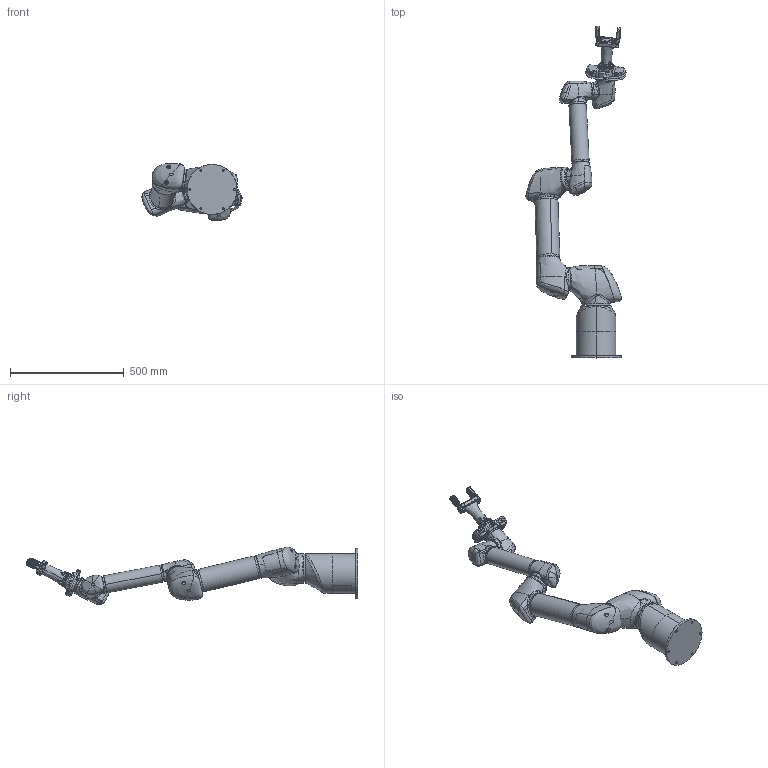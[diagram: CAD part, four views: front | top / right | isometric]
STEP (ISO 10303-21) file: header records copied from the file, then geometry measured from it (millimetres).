
FILE_DESCRIPTION (( 'STEP AP214' ), '1' );
FILE_NAME ('PUB OB7 with Stand.STEP', '2025-12-17T18:59:51', ( '' ), ( '' ), 'SwSTEP 2.0', 'SolidWorks 2025', '' );
FILE_SCHEMA (( 'AUTOMOTIVE_DESIGN' ));
Length unit declared in the file: inch
Products named in the file (17): PG2 Body; FASM4x0.7L10SS PHPH_92000A220; PUB Joint - Medium; PUB Link - J4J5 cover flange; Slider and Finger sub assy_Standard Fingers; PG2 Public; PUB Link - OB7 Small; PUB Joint - Large J2; PUB Joint - Small; MAC1903 - Gripper Finger; PUB OB7 with Stand; MAC1902 - Rack; PUB Joint - Large J1; MLD917 - Gripper Finger Tip - Molded; PUB Link - OB7 Large; PUB OB7 with Stand(2); PUB Handle Assy
Assembly tree (21 placements, depth 5):
  PUB OB7 with Stand
    PUB OB7 with Stand(2)
      PG2 Public
        Slider and Finger sub assy_Standard Fingers  x2
          MLD917 - Gripper Finger Tip - Molded
          MAC1902 - Rack
          MAC1903 - Gripper Finger
          FASM4x0.7L10SS PHPH_92000A220
        PG2 Body
      PUB Joint - Large J1
      PUB Joint - Large J2
      PUB Joint - Medium  x2
      PUB Link - OB7 Large
      PUB Link - J4J5 cover flange
      PUB Joint - Small  x3
      PUB Link - OB7 Small
      PUB Handle Assy
Bounding box: 440.39 x 1460.49 x 252.9 mm (x, y, z)
Volume: 62146.6 mm3; surface area: 1031374.5 mm2
Topology: 10 solids, 74 shells, 3135 faces, 8576 edges, 5458 vertices
Faces by surface type: cylinder 1193, plane 1116, bspline 414, cone 211, torus 173, sphere 28
Entity records: 129010 total; most frequent: CARTESIAN_POINT 89387, ORIENTED_EDGE 9946, DIRECTION 5269, EDGE_CURVE 5108, VERTEX_POINT 3249, B_SPLINE_CURVE_WITH_KNOTS 2868, AXIS2_PLACEMENT_3D 2061, EDGE_LOOP 2030
